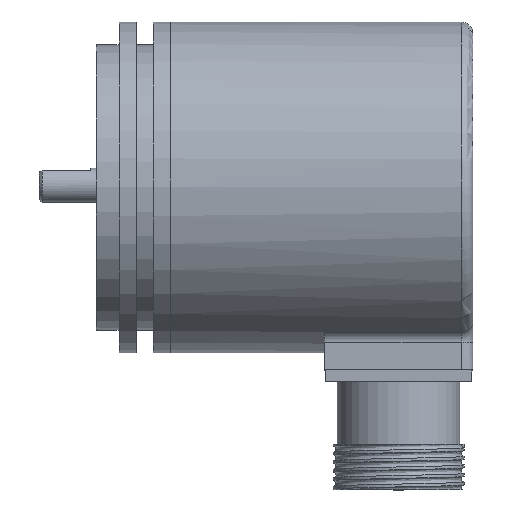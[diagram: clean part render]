
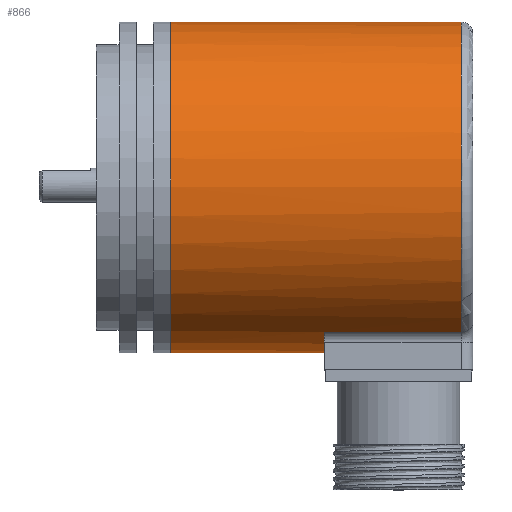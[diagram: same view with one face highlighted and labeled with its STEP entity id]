
A CAD part, top view. The second image highlights one B-rep face of the part: STEP entity #866.
In plain terms, the highlighted cylindrical face has radius 29 mm (diameter 58 mm), a full revolution.
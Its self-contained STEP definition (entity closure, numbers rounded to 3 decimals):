
#687=CYLINDRICAL_SURFACE('',#2081,29.);
#728=FACE_BOUND('',#1071,.T.);
#729=FACE_BOUND('',#1072,.T.);
#866=ADVANCED_FACE('',(#728,#729),#687,.T.);
#1071=EDGE_LOOP('',(#1362,#1363,#1364,#1365));
#1072=EDGE_LOOP('',(#1366));
#1249=CIRCLE('',#2074,29.);
#1253=CIRCLE('',#2079,29.);
#1254=CIRCLE('',#2080,29.);
#1362=ORIENTED_EDGE('',*,*,#1840,.T.);
#1363=ORIENTED_EDGE('',*,*,#1836,.T.);
#1364=ORIENTED_EDGE('',*,*,#1841,.T.);
#1365=ORIENTED_EDGE('',*,*,#1842,.T.);
#1366=ORIENTED_EDGE('',*,*,#1843,.T.);
#1696=VERTEX_POINT('',#2747);
#1697=VERTEX_POINT('',#2748);
#1700=VERTEX_POINT('',#2756);
#1701=VERTEX_POINT('',#2758);
#1702=VERTEX_POINT('',#2761);
#1836=EDGE_CURVE('',#1696,#1697,#1249,.T.);
#1840=EDGE_CURVE('',#1700,#1696,#2001,.T.);
#1841=EDGE_CURVE('',#1697,#1701,#2002,.T.);
#1842=EDGE_CURVE('',#1701,#1700,#1253,.T.);
#1843=EDGE_CURVE('',#1702,#1702,#1254,.T.);
#2001=LINE('',#2755,#2038);
#2002=LINE('',#2757,#2039);
#2038=VECTOR('',#2304,1.);
#2039=VECTOR('',#2305,1.);
#2074=AXIS2_PLACEMENT_3D('',#2746,#2294,#2295);
#2079=AXIS2_PLACEMENT_3D('',#2759,#2306,#2307);
#2080=AXIS2_PLACEMENT_3D('',#2760,#2308,#2309);
#2081=AXIS2_PLACEMENT_3D('',#2762,#2310,#2311);
#2294=DIRECTION('',(-1.,0.,0.));
#2295=DIRECTION('',(0.,0.,-1.));
#2304=DIRECTION('',(1.,0.,0.));
#2305=DIRECTION('',(-1.,0.,0.));
#2306=DIRECTION('',(-1.,0.,0.));
#2307=DIRECTION('',(0.,0.,-1.));
#2308=DIRECTION('',(1.,0.,0.));
#2309=DIRECTION('',(0.,0.,1.));
#2310=DIRECTION('',(1.,0.,0.));
#2311=DIRECTION('',(0.,0.,1.));
#2746=CARTESIAN_POINT('',(60.921,36.103,46.801));
#2747=CARTESIAN_POINT('',(60.921,10.724,60.833));
#2748=CARTESIAN_POINT('',(60.921,10.724,32.769));
#2755=CARTESIAN_POINT('',(62.921,10.724,60.833));
#2756=CARTESIAN_POINT('',(36.921,10.724,60.833));
#2757=CARTESIAN_POINT('',(62.921,10.724,32.769));
#2758=CARTESIAN_POINT('',(36.921,10.724,32.769));
#2759=CARTESIAN_POINT('',(36.921,36.103,46.801));
#2760=CARTESIAN_POINT('',(9.941,36.103,46.801));
#2761=CARTESIAN_POINT('',(9.941,36.103,75.801));
#2762=CARTESIAN_POINT('',(62.921,36.103,46.801));
